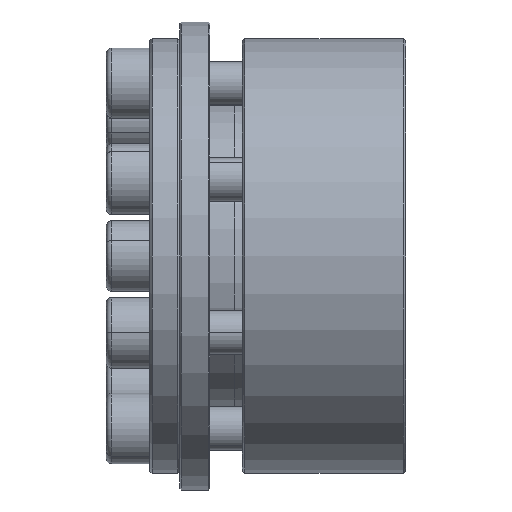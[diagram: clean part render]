
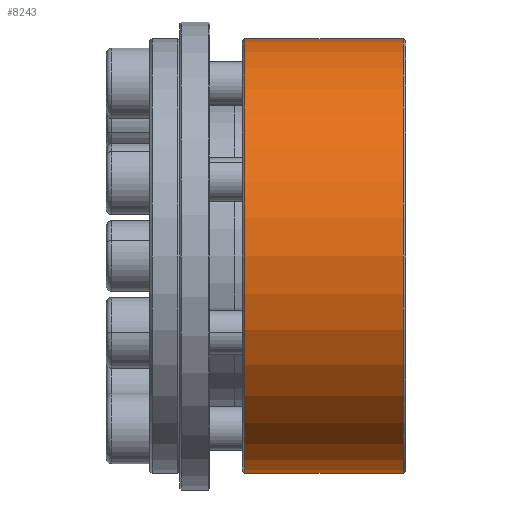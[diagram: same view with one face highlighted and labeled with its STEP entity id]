
A CAD part, front view. The second image highlights one B-rep face of the part: STEP entity #8243.
In plain terms, the highlighted cylindrical face has radius 39.95 mm (diameter 79.9 mm), a partial arc.
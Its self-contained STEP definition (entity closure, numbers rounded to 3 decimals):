
#120 = VERTEX_POINT ( 'NONE', #1523 ) ;
#292 = DIRECTION ( 'NONE',  ( 0., 0., 1. ) ) ;
#524 = VERTEX_POINT ( 'NONE', #3753 ) ;
#611 = ORIENTED_EDGE ( 'NONE', *, *, #4523, .T. ) ;
#930 = DIRECTION ( 'NONE',  ( -1., 0., 0. ) ) ;
#1028 = DIRECTION ( 'NONE',  ( 1., 0., 0. ) ) ;
#1036 = AXIS2_PLACEMENT_3D ( 'NONE', #6861, #1028, #5574 ) ;
#1089 = ORIENTED_EDGE ( 'NONE', *, *, #1770, .T. ) ;
#1325 = CIRCLE ( 'NONE', #1036, 39.95 ) ;
#1460 = EDGE_CURVE ( 'NONE', #6200, #524, #1325, .T. ) ;
#1523 = CARTESIAN_POINT ( 'NONE',  ( -59.166, 26.04, -39.95 ) ) ;
#1698 = ORIENTED_EDGE ( 'NONE', *, *, #1460, .T. ) ;
#1770 = EDGE_CURVE ( 'NONE', #120, #4533, #3989, .T. ) ;
#1929 = ORIENTED_EDGE ( 'NONE', *, *, #7539, .F. ) ;
#2449 = LINE ( 'NONE', #5025, #6226 ) ;
#2852 = FACE_OUTER_BOUND ( 'NONE', #7696, .T. ) ;
#3030 = CARTESIAN_POINT ( 'NONE',  ( -88.366, 26.04, 39.95 ) ) ;
#3753 = CARTESIAN_POINT ( 'NONE',  ( -88.366, 26.04, -39.95 ) ) ;
#3989 = CIRCLE ( 'NONE', #6700, 39.95 ) ;
#4055 = DIRECTION ( 'NONE',  ( -1., 0., 0. ) ) ;
#4403 = DIRECTION ( 'NONE',  ( -1., 0., 0. ) ) ;
#4523 = EDGE_CURVE ( 'NONE', #4533, #6200, #8379, .T. ) ;
#4533 = VERTEX_POINT ( 'NONE', #5129 ) ;
#5025 = CARTESIAN_POINT ( 'NONE',  ( -88.766, 26.04, -39.95 ) ) ;
#5129 = CARTESIAN_POINT ( 'NONE',  ( -59.166, 26.04, 39.95 ) ) ;
#5574 = DIRECTION ( 'NONE',  ( 0., 0., -1. ) ) ;
#6102 = AXIS2_PLACEMENT_3D ( 'NONE', #7407, #930, #292 ) ;
#6200 = VERTEX_POINT ( 'NONE', #3030 ) ;
#6226 = VECTOR ( 'NONE', #6436, 1000. ) ;
#6436 = DIRECTION ( 'NONE',  ( -1., 0., 0. ) ) ;
#6687 = DIRECTION ( 'NONE',  ( 0., 0., 1. ) ) ;
#6700 = AXIS2_PLACEMENT_3D ( 'NONE', #7251, #4055, #6687 ) ;
#6861 = CARTESIAN_POINT ( 'NONE',  ( -88.366, 26.04, 0. ) ) ;
#7251 = CARTESIAN_POINT ( 'NONE',  ( -59.166, 26.04, 0. ) ) ;
#7407 = CARTESIAN_POINT ( 'NONE',  ( -88.766, 26.04, 0. ) ) ;
#7539 = EDGE_CURVE ( 'NONE', #120, #524, #2449, .T. ) ;
#7692 = CARTESIAN_POINT ( 'NONE',  ( -88.766, 26.04, 39.95 ) ) ;
#7696 = EDGE_LOOP ( 'NONE', ( #1929, #1089, #611, #1698 ) ) ;
#8045 = CYLINDRICAL_SURFACE ( 'NONE', #6102, 39.95 ) ;
#8243 = ADVANCED_FACE ( 'NONE', ( #2852 ), #8045, .T. ) ;
#8322 = VECTOR ( 'NONE', #4403, 1000. ) ;
#8379 = LINE ( 'NONE', #7692, #8322 ) ;
